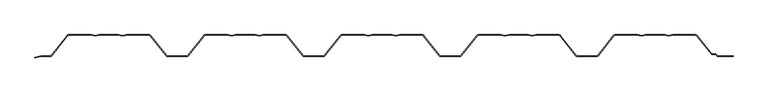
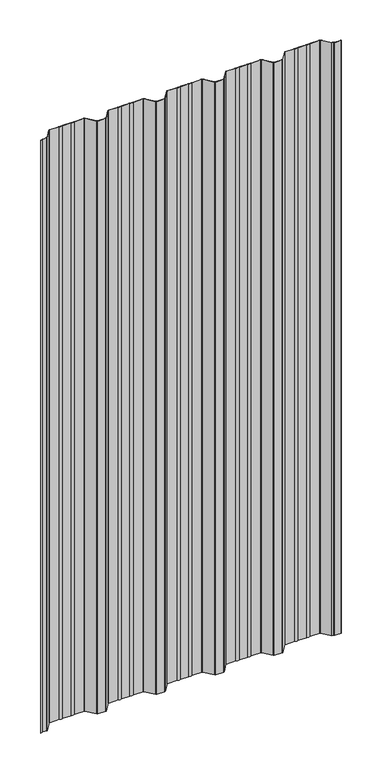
"""IFC4 building model written with IfcOpenShell, lengths in millimetres: plate geometry, HIANSA - H20.F09.003-CHAPA PERFILADA FACHADA VERTICAL - MT32F - Panel de Muro Cortina : -."""

from ifc_helpers import new_model, si_unit, point, frame_2d, origin, origin_with_axes, place, context, project, spatial, polyline, circle_curve, trimmed, segment, composite_curve, outline, extrude, source, transform, mapped, element, save


def plate_2b1bface(model_context):
    return source(origin(), model_context, "Body", "SweptSolid", [
        extrude(outline(composite_curve([segment(polyline([(-484.4192941, -30.5163104), (-461.2209234, -1.2863633)]), True, "CONTINUOUS"), segment(trimmed(circle_curve(frame_2d((-458.5577411, -3.4)), 3.4), [point((-461.2209234, -1.2863633))], [point((-458.5577411, 0.0))], False, "CARTESIAN"), True, "CONTINUOUS"), segment(polyline([(-458.5577411, 0.0), (-425.9329589, 0.0)]), True, "CONTINUOUS"), segment(trimmed(circle_curve(frame_2d((-420.0000002, 17.1)), 18.1), [point((-425.9329589, 0.0))], [point((-414.0670414, 0.0))], True, "CARTESIAN"), True, "CONTINUOUS"), segment(polyline([(-414.0670414, 0.0), (-385.9329589, 0.0)]), True, "CONTINUOUS"), segment(trimmed(circle_curve(frame_2d((-380.0000002, 17.1)), 18.1), [point((-385.9329589, 0.0))], [point((-374.0670414, 0.0))], True, "CARTESIAN"), True, "CONTINUOUS"), segment(polyline([(-374.0670414, 0.0), (-341.4422592, 0.0)]), True, "CONTINUOUS"), segment(trimmed(circle_curve(frame_2d((-341.4422592, -3.4)), 3.4), [point((-341.4422592, 0.0))], [point((-338.7790769, -1.2863633))], False, "CARTESIAN"), True, "CONTINUOUS"), segment(polyline([(-338.7790769, -1.2863633), (-315.5807062, -30.5163104)]), True, "CONTINUOUS"), segment(trimmed(circle_curve(frame_2d((-313.544155, -28.9)), 2.6), [point((-315.5807062, -30.5163104))], [point((-313.544155, -31.5))], True, "CARTESIAN"), True, "CONTINUOUS"), segment(polyline([(-313.544155, -31.5), (-286.4558453, -31.5)]), True, "CONTINUOUS"), segment(trimmed(circle_curve(frame_2d((-286.4558453, -28.9)), 2.6), [point((-286.4558453, -31.5))], [point((-284.4192941, -30.5163104))], True, "CARTESIAN"), True, "CONTINUOUS"), segment(polyline([(-284.4192941, -30.5163104), (-261.2209234, -1.2863633)]), True, "CONTINUOUS"), segment(trimmed(circle_curve(frame_2d((-258.5577411, -3.4)), 3.4), [point((-261.2209234, -1.2863633))], [point((-258.5577411, 0.0))], False, "CARTESIAN"), True, "CONTINUOUS"), segment(polyline([(-258.5577411, 0.0), (-225.9329589, 0.0)]), True, "CONTINUOUS"), segment(trimmed(circle_curve(frame_2d((-220.0000002, 17.1)), 18.1), [point((-225.9329589, 0.0))], [point((-214.0670414, 0.0))], True, "CARTESIAN"), True, "CONTINUOUS"), segment(polyline([(-214.0670414, 0.0), (-185.9329589, 0.0)]), True, "CONTINUOUS"), segment(trimmed(circle_curve(frame_2d((-180.0000002, 17.1)), 18.1), [point((-185.9329589, 0.0))], [point((-174.0670414, 0.0))], True, "CARTESIAN"), True, "CONTINUOUS"), segment(polyline([(-174.0670414, 0.0), (-141.4422592, 0.0)]), True, "CONTINUOUS"), segment(trimmed(circle_curve(frame_2d((-141.4422592, -3.4)), 3.4), [point((-141.4422592, 0.0))], [point((-138.7790769, -1.2863633))], False, "CARTESIAN"), True, "CONTINUOUS"), segment(polyline([(-138.7790769, -1.2863633), (-115.5807062, -30.5163104)]), True, "CONTINUOUS"), segment(trimmed(circle_curve(frame_2d((-113.544155, -28.9)), 2.6), [point((-115.5807062, -30.5163104))], [point((-113.544155, -31.5))], True, "CARTESIAN"), True, "CONTINUOUS"), segment(polyline([(-113.544155, -31.5), (-86.4558453, -31.5)]), True, "CONTINUOUS"), segment(trimmed(circle_curve(frame_2d((-86.4558453, -28.9)), 2.6), [point((-86.4558453, -31.5))], [point((-84.4192941, -30.5163104))], True, "CARTESIAN"), True, "CONTINUOUS"), segment(polyline([(-84.4192941, -30.5163104), (-61.2209234, -1.2863633)]), True, "CONTINUOUS"), segment(trimmed(circle_curve(frame_2d((-58.5577411, -3.4)), 3.4), [point((-61.2209234, -1.2863633))], [point((-58.5577411, 0.0))], False, "CARTESIAN"), True, "CONTINUOUS"), segment(polyline([(-58.5577411, 0.0), (-25.9329589, 0.0)]), True, "CONTINUOUS"), segment(trimmed(circle_curve(frame_2d((-20.0000002, 17.1)), 18.1), [point((-25.9329589, 0.0))], [point((-14.0670414, 0.0))], True, "CARTESIAN"), True, "CONTINUOUS"), segment(polyline([(-14.0670414, 0.0), (14.0670411, 0.0)]), True, "CONTINUOUS"), segment(trimmed(circle_curve(frame_2d((19.9999998, 17.1)), 18.1), [point((14.0670411, 0.0))], [point((25.9329586, 0.0))], True, "CARTESIAN"), True, "CONTINUOUS"), segment(polyline([(25.9329586, 0.0), (58.5577408, 0.0)]), True, "CONTINUOUS"), segment(trimmed(circle_curve(frame_2d((58.5577408, -3.4)), 3.4), [point((58.5577408, 0.0))], [point((61.2209231, -1.2863633))], False, "CARTESIAN"), True, "CONTINUOUS"), segment(polyline([(61.2209231, -1.2863633), (84.4192938, -30.5163104)]), True, "CONTINUOUS"), segment(trimmed(circle_curve(frame_2d((86.455845, -28.9)), 2.6), [point((84.4192938, -30.5163104))], [point((86.455845, -31.5))], True, "CARTESIAN"), True, "CONTINUOUS"), segment(polyline([(86.455845, -31.5), (113.5441547, -31.5)]), True, "CONTINUOUS"), segment(trimmed(circle_curve(frame_2d((113.5441547, -28.9)), 2.6), [point((113.5441547, -31.5))], [point((115.5807059, -30.5163104))], True, "CARTESIAN"), True, "CONTINUOUS"), segment(polyline([(115.5807059, -30.5163104), (138.7790766, -1.2863633)]), True, "CONTINUOUS"), segment(trimmed(circle_curve(frame_2d((141.4422589, -3.4)), 3.4), [point((138.7790766, -1.2863633))], [point((141.4422589, 0.0))], False, "CARTESIAN"), True, "CONTINUOUS"), segment(polyline([(141.4422589, 0.0), (174.0670411, 0.0)]), True, "CONTINUOUS"), segment(trimmed(circle_curve(frame_2d((179.9999998, 17.1)), 18.1), [point((174.0670411, 0.0))], [point((185.9329586, 0.0))], True, "CARTESIAN"), True, "CONTINUOUS"), segment(polyline([(185.9329586, 0.0), (214.0670411, 0.0)]), True, "CONTINUOUS"), segment(trimmed(circle_curve(frame_2d((219.9999998, 17.1)), 18.1), [point((214.0670411, 0.0))], [point((225.9329586, 0.0))], True, "CARTESIAN"), True, "CONTINUOUS"), segment(polyline([(225.9329586, 0.0), (258.5577408, 0.0)]), True, "CONTINUOUS"), segment(trimmed(circle_curve(frame_2d((258.5577408, -3.4)), 3.4), [point((258.5577408, 0.0))], [point((261.2209231, -1.2863633))], False, "CARTESIAN"), True, "CONTINUOUS"), segment(polyline([(261.2209231, -1.2863633), (284.4192938, -30.5163104)]), True, "CONTINUOUS"), segment(trimmed(circle_curve(frame_2d((286.455845, -28.9)), 2.6), [point((284.4192938, -30.5163104))], [point((286.455845, -31.5))], True, "CARTESIAN"), True, "CONTINUOUS"), segment(polyline([(286.455845, -31.5), (313.5441547, -31.5)]), True, "CONTINUOUS"), segment(trimmed(circle_curve(frame_2d((313.5441547, -28.9)), 2.6), [point((313.5441547, -31.5))], [point((315.5807059, -30.5163104))], True, "CARTESIAN"), True, "CONTINUOUS"), segment(polyline([(315.5807059, -30.5163104), (338.7790766, -1.2863633)]), True, "CONTINUOUS"), segment(trimmed(circle_curve(frame_2d((341.4422589, -3.4)), 3.4), [point((338.7790766, -1.2863633))], [point((341.4422589, 0.0))], False, "CARTESIAN"), True, "CONTINUOUS"), segment(polyline([(341.4422589, 0.0), (374.0670411, 0.0)]), True, "CONTINUOUS"), segment(trimmed(circle_curve(frame_2d((379.9999998, 17.1)), 18.1), [point((374.0670411, 0.0))], [point((385.9329586, 0.0))], True, "CARTESIAN"), True, "CONTINUOUS"), segment(polyline([(385.9329586, 0.0), (414.0670411, 0.0)]), True, "CONTINUOUS"), segment(trimmed(circle_curve(frame_2d((419.9999998, 17.1)), 18.1), [point((414.0670411, 0.0))], [point((425.9329586, 0.0))], True, "CARTESIAN"), True, "CONTINUOUS"), segment(polyline([(425.9329586, 0.0), (458.5577408, 0.0)]), True, "CONTINUOUS"), segment(trimmed(circle_curve(frame_2d((458.5577408, -3.4)), 3.4), [point((458.5577408, 0.0))], [point((461.2209231, -1.2863633))], False, "CARTESIAN"), True, "CONTINUOUS"), segment(polyline([(461.2209231, -1.2863633), (482.8190475, -28.5), (488.8171335, -28.5), (491.2171335, -31.5), (513.5441547, -31.5)]), True, "CONTINUOUS"), segment(trimmed(circle_curve(frame_2d((513.5441547, -28.9)), 2.6), [point((513.5441547, -31.5))], [point((514.0, -31.4597275))], True, "CARTESIAN"), True, "CONTINUOUS"), segment(polyline([(514.0, -31.4597275), (514.0, -32.2693034)]), True, "CONTINUOUS"), segment(trimmed(circle_curve(frame_2d((513.5441547, -28.9)), 3.4), [point((514.0, -32.2693034))], [point((513.5441547, -32.3))], False, "CARTESIAN"), True, "CONTINUOUS"), segment(polyline([(513.5441547, -32.3), (490.8326336, -32.3), (488.4326336, -29.3), (482.4326336, -29.3), (460.594292, -1.7836896)]), True, "CONTINUOUS"), segment(trimmed(circle_curve(frame_2d((458.5577408, -3.4)), 2.6), [point((460.594292, -1.7836896))], [point((458.5577408, -0.8))], True, "CARTESIAN"), True, "CONTINUOUS"), segment(polyline([(458.5577408, -0.8), (426.0663002, -0.8)]), True, "CONTINUOUS"), segment(trimmed(circle_curve(frame_2d((419.9999998, 17.1)), 18.9), [point((426.0663002, -0.8))], [point((413.9336995, -0.8))], False, "CARTESIAN"), True, "CONTINUOUS"), segment(polyline([(413.9336995, -0.8), (386.0663002, -0.8)]), True, "CONTINUOUS"), segment(trimmed(circle_curve(frame_2d((379.9999998, 17.1)), 18.9), [point((386.0663002, -0.8))], [point((373.9336995, -0.8))], False, "CARTESIAN"), True, "CONTINUOUS"), segment(polyline([(373.9336995, -0.8), (341.4422589, -0.8)]), True, "CONTINUOUS"), segment(trimmed(circle_curve(frame_2d((341.4422589, -3.4)), 2.6), [point((341.4422589, -0.8))], [point((339.4057077, -1.7836896))], True, "CARTESIAN"), True, "CONTINUOUS"), segment(polyline([(339.4057077, -1.7836896), (316.207337, -31.0136367)]), True, "CONTINUOUS"), segment(trimmed(circle_curve(frame_2d((313.5441547, -28.9)), 3.4), [point((316.207337, -31.0136367))], [point((313.5441547, -32.3))], False, "CARTESIAN"), True, "CONTINUOUS"), segment(polyline([(313.5441547, -32.3), (286.455845, -32.3)]), True, "CONTINUOUS"), segment(trimmed(circle_curve(frame_2d((286.455845, -28.9)), 3.4), [point((286.455845, -32.3))], [point((283.7926627, -31.0136367))], False, "CARTESIAN"), True, "CONTINUOUS"), segment(polyline([(283.7926627, -31.0136367), (260.594292, -1.7836896)]), True, "CONTINUOUS"), segment(trimmed(circle_curve(frame_2d((258.5577408, -3.4)), 2.6), [point((260.594292, -1.7836896))], [point((258.5577408, -0.8))], True, "CARTESIAN"), True, "CONTINUOUS"), segment(polyline([(258.5577408, -0.8), (226.0663002, -0.8)]), True, "CONTINUOUS"), segment(trimmed(circle_curve(frame_2d((219.9999998, 17.1)), 18.9), [point((226.0663002, -0.8))], [point((213.9336995, -0.8))], False, "CARTESIAN"), True, "CONTINUOUS"), segment(polyline([(213.9336995, -0.8), (186.0663002, -0.8)]), True, "CONTINUOUS"), segment(trimmed(circle_curve(frame_2d((179.9999998, 17.1)), 18.9), [point((186.0663002, -0.8))], [point((173.9336995, -0.8))], False, "CARTESIAN"), True, "CONTINUOUS"), segment(polyline([(173.9336995, -0.8), (141.4422589, -0.8)]), True, "CONTINUOUS"), segment(trimmed(circle_curve(frame_2d((141.4422589, -3.4)), 2.6), [point((141.4422589, -0.8))], [point((139.4057077, -1.7836896))], True, "CARTESIAN"), True, "CONTINUOUS"), segment(polyline([(139.4057077, -1.7836896), (116.207337, -31.0136367)]), True, "CONTINUOUS"), segment(trimmed(circle_curve(frame_2d((113.5441547, -28.9)), 3.4), [point((116.207337, -31.0136367))], [point((113.5441547, -32.3))], False, "CARTESIAN"), True, "CONTINUOUS"), segment(polyline([(113.5441547, -32.3), (86.455845, -32.3)]), True, "CONTINUOUS"), segment(trimmed(circle_curve(frame_2d((86.455845, -28.9)), 3.4), [point((86.455845, -32.3))], [point((83.7926627, -31.0136367))], False, "CARTESIAN"), True, "CONTINUOUS"), segment(polyline([(83.7926627, -31.0136367), (60.594292, -1.7836896)]), True, "CONTINUOUS"), segment(trimmed(circle_curve(frame_2d((58.5577408, -3.4)), 2.6), [point((60.594292, -1.7836896))], [point((58.5577408, -0.8))], True, "CARTESIAN"), True, "CONTINUOUS"), segment(polyline([(58.5577408, -0.8), (26.0663002, -0.8)]), True, "CONTINUOUS"), segment(trimmed(circle_curve(frame_2d((19.9999998, 17.1)), 18.9), [point((26.0663002, -0.8))], [point((13.9336995, -0.8))], False, "CARTESIAN"), True, "CONTINUOUS"), segment(polyline([(13.9336995, -0.8), (-13.9336998, -0.8)]), True, "CONTINUOUS"), segment(trimmed(circle_curve(frame_2d((-20.0000002, 17.1)), 18.9), [point((-13.9336998, -0.8))], [point((-26.0663005, -0.8))], False, "CARTESIAN"), True, "CONTINUOUS"), segment(polyline([(-26.0663005, -0.8), (-58.5577411, -0.8)]), True, "CONTINUOUS"), segment(trimmed(circle_curve(frame_2d((-58.5577411, -3.4)), 2.6), [point((-58.5577411, -0.8))], [point((-60.5942923, -1.7836896))], True, "CARTESIAN"), True, "CONTINUOUS"), segment(polyline([(-60.5942923, -1.7836896), (-83.792663, -31.0136367)]), True, "CONTINUOUS"), segment(trimmed(circle_curve(frame_2d((-86.4558453, -28.9)), 3.4), [point((-83.792663, -31.0136367))], [point((-86.4558453, -32.3))], False, "CARTESIAN"), True, "CONTINUOUS"), segment(polyline([(-86.4558453, -32.3), (-113.544155, -32.3)]), True, "CONTINUOUS"), segment(trimmed(circle_curve(frame_2d((-113.544155, -28.9)), 3.4), [point((-113.544155, -32.3))], [point((-116.2073373, -31.0136367))], False, "CARTESIAN"), True, "CONTINUOUS"), segment(polyline([(-116.2073373, -31.0136367), (-139.405708, -1.7836896)]), True, "CONTINUOUS"), segment(trimmed(circle_curve(frame_2d((-141.4422592, -3.4)), 2.6), [point((-139.405708, -1.7836896))], [point((-141.4422592, -0.8))], True, "CARTESIAN"), True, "CONTINUOUS"), segment(polyline([(-141.4422592, -0.8), (-173.9336998, -0.8)]), True, "CONTINUOUS"), segment(trimmed(circle_curve(frame_2d((-180.0000002, 17.1)), 18.9), [point((-173.9336998, -0.8))], [point((-186.0663005, -0.8))], False, "CARTESIAN"), True, "CONTINUOUS"), segment(polyline([(-186.0663005, -0.8), (-213.9336998, -0.8)]), True, "CONTINUOUS"), segment(trimmed(circle_curve(frame_2d((-220.0000002, 17.1)), 18.9), [point((-213.9336998, -0.8))], [point((-226.0663005, -0.8))], False, "CARTESIAN"), True, "CONTINUOUS"), segment(polyline([(-226.0663005, -0.8), (-258.5577411, -0.8)]), True, "CONTINUOUS"), segment(trimmed(circle_curve(frame_2d((-258.5577411, -3.4)), 2.6), [point((-258.5577411, -0.8))], [point((-260.5942923, -1.7836896))], True, "CARTESIAN"), True, "CONTINUOUS"), segment(polyline([(-260.5942923, -1.7836896), (-283.792663, -31.0136367)]), True, "CONTINUOUS"), segment(trimmed(circle_curve(frame_2d((-286.4558453, -28.9)), 3.4), [point((-283.792663, -31.0136367))], [point((-286.4558453, -32.3))], False, "CARTESIAN"), True, "CONTINUOUS"), segment(polyline([(-286.4558453, -32.3), (-313.544155, -32.3)]), True, "CONTINUOUS"), segment(trimmed(circle_curve(frame_2d((-313.544155, -28.9)), 3.4), [point((-313.544155, -32.3))], [point((-316.2073373, -31.0136367))], False, "CARTESIAN"), True, "CONTINUOUS"), segment(polyline([(-316.2073373, -31.0136367), (-339.405708, -1.7836896)]), True, "CONTINUOUS"), segment(trimmed(circle_curve(frame_2d((-341.4422592, -3.4)), 2.6), [point((-339.405708, -1.7836896))], [point((-341.4422592, -0.8))], True, "CARTESIAN"), True, "CONTINUOUS"), segment(polyline([(-341.4422592, -0.8), (-373.9336998, -0.8)]), True, "CONTINUOUS"), segment(trimmed(circle_curve(frame_2d((-380.0000002, 17.1)), 18.9), [point((-373.9336998, -0.8))], [point((-386.0663005, -0.8))], False, "CARTESIAN"), True, "CONTINUOUS"), segment(polyline([(-386.0663005, -0.8), (-413.9336998, -0.8)]), True, "CONTINUOUS"), segment(trimmed(circle_curve(frame_2d((-420.0000002, 17.1)), 18.9), [point((-413.9336998, -0.8))], [point((-426.0663005, -0.8))], False, "CARTESIAN"), True, "CONTINUOUS"), segment(polyline([(-426.0663005, -0.8), (-458.5577411, -0.8)]), True, "CONTINUOUS"), segment(trimmed(circle_curve(frame_2d((-458.5577411, -3.4)), 2.6), [point((-458.5577411, -0.8))], [point((-460.5942923, -1.7836896))], True, "CARTESIAN"), True, "CONTINUOUS"), segment(polyline([(-460.5942923, -1.7836896), (-483.792663, -31.0136367)]), True, "CONTINUOUS"), segment(trimmed(circle_curve(frame_2d((-486.4558453, -28.9)), 3.4), [point((-483.792663, -31.0136367))], [point((-486.4558453, -32.3))], False, "CARTESIAN"), True, "CONTINUOUS"), segment(polyline([(-486.4558453, -32.3), (-500.0000002, -32.3), (-508.3011516, -34.0662289), (-508.3011516, -33.248321), (-500.0841658, -31.5), (-486.4558453, -31.5)]), True, "CONTINUOUS"), segment(trimmed(circle_curve(frame_2d((-486.4558453, -28.9)), 2.6), [point((-486.4558453, -31.5))], [point((-484.4192941, -30.5163104))], True, "CARTESIAN"), True, "CONTINUOUS")], self_intersect=False)), origin_with_axes(), (0.0, 0.0, 1.0), 2128.0),
    ])


if __name__ == "__main__":
    model = new_model("IFC4")
    model_context = context("Model", 3, world=origin())
    ifc_project = project(units=[si_unit("LENGTHUNIT", "METRE", prefix="MILLI")], contexts=[model_context])
    site = spatial("IfcSite", under=ifc_project)
    building = spatial("IfcBuilding", under=site)
    placement = place(None, origin())
    plate_shape = plate_2b1bface(model_context)
    element("IfcPlate", 1, ObjectType="HIANSA - H20.F09.003-CHAPA PERFILADA FACHADA VERTICAL - MT32F - Panel de Muro Cortina : -", at=placement, inside=building, context=model_context, shape_type="MappedRepresentation", body=[
        mapped(plate_shape, transform((0.0, 0.0, 0.0), x_axis=(1.0, 0.0, 0.0), y_axis=(0.0, 1.0, 0.0), z_axis=(0.0, 0.0, 1.0))),
    ])
    save(model, "model.ifc")
